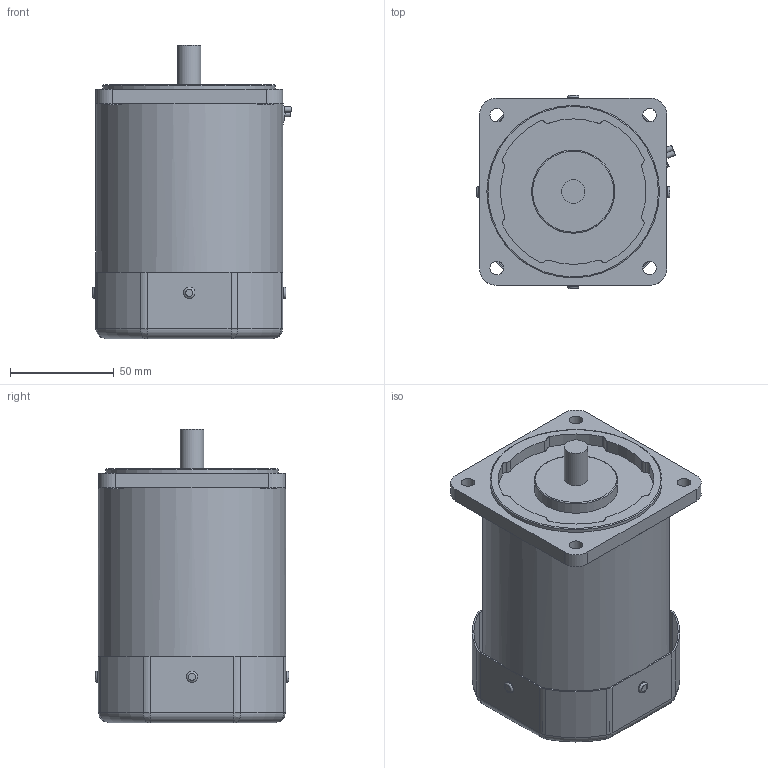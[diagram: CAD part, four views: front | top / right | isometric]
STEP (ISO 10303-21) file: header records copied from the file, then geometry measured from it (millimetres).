
FILE_DESCRIPTION((''),'2;1');
FILE_NAME('E:\2공장-도면\3D\표준형 3D(민규)\step file\표준\K9IP60Fㅁ.stp','2014-11-13T17:58:34',('AHN'),(''),'Autodesk Inventor 2012','Autodesk Inventor 2012','');
FILE_SCHEMA(('CONFIG_CONTROL_DESIGN'));
Length unit declared in the file: millimetre
Products named in the file (1): K9IP60Fㅁ
Bounding box: 95.71 x 93 x 141 mm (x, y, z)
Volume: 681392.6 mm3; surface area: 78098.3 mm2
Topology: 1 solids, 7 shells, 260 faces, 609 edges, 363 vertices
Faces by surface type: cylinder 131, plane 75, torus 46, bspline 8
Full cylindrical faces by diameter (mm): 5.5 x4, 6.5 x4, 8 x4, 11.3 x1, 40 x1, 83 x1, 90 x1
Entity records: 8206 total; most frequent: CARTESIAN_POINT 2243, DIRECTION 1291, ORIENTED_EDGE 1168, EDGE_CURVE 584, AXIS2_PLACEMENT_3D 519, VERTEX_POINT 360, EDGE_LOOP 327, CIRCLE 266
